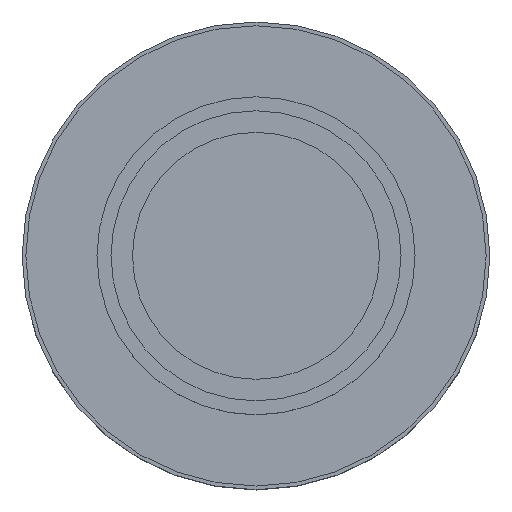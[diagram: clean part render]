
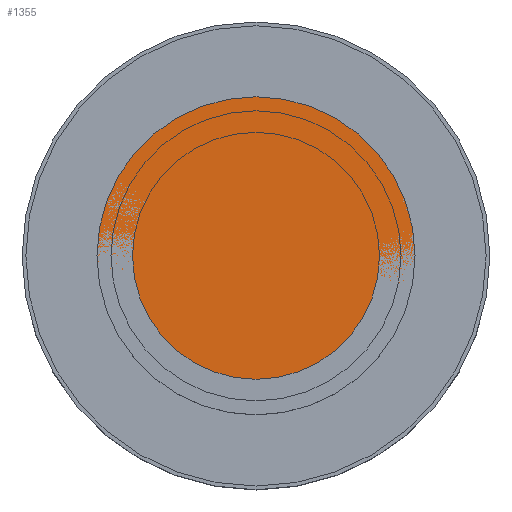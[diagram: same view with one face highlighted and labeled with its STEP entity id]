
A CAD part, top view. The second image highlights one B-rep face of the part: STEP entity #1355.
In plain terms, the highlighted planar face has unit normal (0, 0, 1).
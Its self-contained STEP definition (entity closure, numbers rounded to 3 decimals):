
#1289 = CYLINDRICAL_SURFACE('',#1290,8.5);
#1290 = AXIS2_PLACEMENT_3D('',#1291,#1292,#1293);
#1291 = CARTESIAN_POINT('',(0.,0.,9.8));
#1292 = DIRECTION('',(0.,0.,1.));
#1293 = DIRECTION('',(1.,0.,0.));
#1306 = VERTEX_POINT('',#1307);
#1307 = CARTESIAN_POINT('',(8.5,0.,11.8));
#1328 = EDGE_CURVE('',#1306,#1306,#1329,.T.);
#1329 = SURFACE_CURVE('',#1330,(#1335,#1342),.PCURVE_S1.);
#1330 = CIRCLE('',#1331,8.5);
#1331 = AXIS2_PLACEMENT_3D('',#1332,#1333,#1334);
#1332 = CARTESIAN_POINT('',(0.,0.,11.8));
#1333 = DIRECTION('',(0.,0.,-1.));
#1334 = DIRECTION('',(1.,0.,0.));
#1335 = PCURVE('',#1289,#1336);
#1336 = DEFINITIONAL_REPRESENTATION('',(#1337),#1341);
#1337 = LINE('',#1338,#1339);
#1338 = CARTESIAN_POINT('',(-0.,2.));
#1339 = VECTOR('',#1340,1.);
#1340 = DIRECTION('',(-1.,0.));
#1341 = ( GEOMETRIC_REPRESENTATION_CONTEXT(2) 
PARAMETRIC_REPRESENTATION_CONTEXT() REPRESENTATION_CONTEXT('2D SPACE',''
  ) );
#1342 = PCURVE('',#1343,#1348);
#1343 = PLANE('',#1344);
#1344 = AXIS2_PLACEMENT_3D('',#1345,#1346,#1347);
#1345 = CARTESIAN_POINT('',(0.,0.,11.8));
#1346 = DIRECTION('',(-0.,0.,-1.));
#1347 = DIRECTION('',(1.,0.,0.));
#1348 = DEFINITIONAL_REPRESENTATION('',(#1349),#1353);
#1349 = CIRCLE('',#1350,8.5);
#1350 = AXIS2_PLACEMENT_2D('',#1351,#1352);
#1351 = CARTESIAN_POINT('',(0.,0.));
#1352 = DIRECTION('',(1.,0.));
#1353 = ( GEOMETRIC_REPRESENTATION_CONTEXT(2) 
PARAMETRIC_REPRESENTATION_CONTEXT() REPRESENTATION_CONTEXT('2D SPACE',''
  ) );
#1355 = ADVANCED_FACE('',(#1356),#1343,.F.);
#1356 = FACE_BOUND('',#1357,.F.);
#1357 = EDGE_LOOP('',(#1358));
#1358 = ORIENTED_EDGE('',*,*,#1328,.T.);
